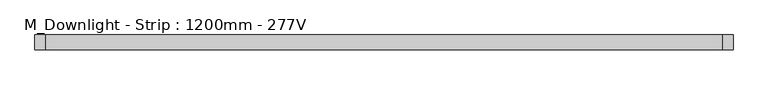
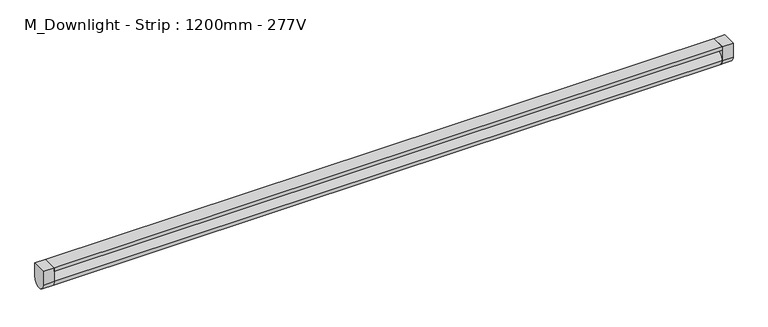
"""IFC4 building model written with IfcOpenShell, lengths in millimetres: light fixture geometry, M_Downlight - Strip : 1200mm - 277V."""

import ifcopenshell
import ifcopenshell.guid

model = None  # the IFC model being written
_history = None  # IfcOwnerHistory: only IFC2X3 demands one
_inside = {}  # id of a spatial element -> (the spatial element, [elements in it])
_under = {}  # id of a project, library or spatial element -> (it, [spatial elements below it])
_declared = {}  # id of a project -> (the project, [libraries it declares])
_typed = {}  # id of a type object -> (the type object, [elements of that type])
_made_of = {}  # id of a material, layer set ... -> (it, [elements and type objects made of it])


def new_model(schema):
    """Start an empty IFC model of exactly this schema.

    Asked for "IFC4X3", IfcOpenShell would pick the latest addendum, in which some entities
    have other attributes; the version numbers below select the first issue.
    IFC2X3 requires an IfcOwnerHistory on every rooted entity: one is made here for all.
    """
    global model, _history
    if schema == "IFC4X3":
        model = ifcopenshell.file(schema_version=(4, 3, 0, 0))
    else:
        model = ifcopenshell.file(schema=schema)
    _inside.clear()
    _under.clear()
    _declared.clear()
    _typed.clear()
    _made_of.clear()
    _history = None
    if model.schema == "IFC2X3":
        org = make("IfcOrganization", Name="unknown")
        user = make(
            "IfcPersonAndOrganization",
            ThePerson=make("IfcPerson", FamilyName="unknown"),
            TheOrganization=org,
        )
        app = make(
            "IfcApplication",
            ApplicationDeveloper=org,
            Version="unknown",
            ApplicationFullName="unknown",
            ApplicationIdentifier="unknown",
        )
        _history = make(
            "IfcOwnerHistory",
            OwningUser=user,
            OwningApplication=app,
            ChangeAction="ADDED",
            CreationDate=0,
        )
    return model


def make(cls, **values):
    """One entity of the class cls with the attributes given. An attribute that is None is left unset."""
    return model.create_entity(
        cls, **{name: value for name, value in values.items() if value is not None}
    )


def rooted(cls, **values):
    """An entity with a GlobalId (a new one), such as an element, a storey or a relation."""
    return make(cls, GlobalId=ifcopenshell.guid.new(), OwnerHistory=_history, **values)


def si_unit(unit_type, name, prefix=None):
    """IfcSIUnit, for example si_unit("LENGTHUNIT", "METRE", prefix="MILLI")."""
    return make("IfcSIUnit", UnitType=unit_type, Prefix=prefix, Name=name)


def assignment(units):
    """IfcUnitAssignment: the units of a project."""
    return None if units is None else make("IfcUnitAssignment", Units=units)


def point(xyz):
    """IfcCartesianPoint."""
    return None if xyz is None else make("IfcCartesianPoint", Coordinates=xyz)


def direction(xyz):
    """IfcDirection."""
    return None if xyz is None else make("IfcDirection", DirectionRatios=xyz)


def frame(location, z_axis=None, x_axis=None):
    """IfcAxis2Placement3D, a coordinate frame: its origin and axes. An axis left out is left unset."""
    return make(
        "IfcAxis2Placement3D",
        Location=point(location),
        Axis=direction(z_axis),
        RefDirection=direction(x_axis),
    )


def frame_2d(location, x_axis=None):
    """IfcAxis2Placement2D, a coordinate frame in the plane: its origin and x axis."""
    return make(
        "IfcAxis2Placement2D", Location=point(location), RefDirection=direction(x_axis)
    )


def origin():
    """The frame at (0, 0, 0) with its axes left unset."""
    return frame((0.0, 0.0, 0.0))


def place(relative_to, where):
    """IfcLocalPlacement: puts the frame where relative to a parent placement (None: the world)."""
    return make(
        "IfcLocalPlacement", PlacementRelTo=relative_to, RelativePlacement=where
    )


def context(
    kind, dimensions, precision=None, world=None, true_north=None, identifier=None
):
    """IfcGeometricRepresentationContext, for example the 3D "Model" context."""
    return make(
        "IfcGeometricRepresentationContext",
        ContextIdentifier=identifier,
        ContextType=kind,
        CoordinateSpaceDimension=dimensions,
        Precision=precision,
        WorldCoordinateSystem=world,
        TrueNorth=true_north,
    )


def project(units=None, contexts=None):
    """IfcProject with its units and contexts."""
    return rooted(
        "IfcProject",
        Name="project",
        RepresentationContexts=contexts,
        UnitsInContext=assignment(units),
    )


def spatial(cls, under=None, at=None, **own):
    """A site, building, storey or space (cls), placed at a placement, below another one or the project."""
    s = rooted(cls, ObjectPlacement=at, **own)
    if under is not None:
        _under.setdefault(under.id(), (under, []))[1].append(s)
    return s


def polyline(points):
    """IfcPolyline through the points."""
    return make("IfcPolyline", Points=[point(p) for p in points])


def circle_curve(where, radius):
    """IfcCircle in the frame where."""
    return make("IfcCircle", Position=where, Radius=radius)


def trimmed(basis, trim1, trim2, sense, master):
    """IfcTrimmedCurve: the piece of a basis curve between two trims."""
    return make(
        "IfcTrimmedCurve",
        BasisCurve=basis,
        Trim1=trim1,
        Trim2=trim2,
        SenseAgreement=sense,
        MasterRepresentation=master,
    )


def segment(curve, same_sense, transition):
    """IfcCompositeCurveSegment."""
    return make(
        "IfcCompositeCurveSegment",
        Transition=transition,
        SameSense=same_sense,
        ParentCurve=curve,
    )


def composite_curve(segments, self_intersect=None):
    """IfcCompositeCurve: segments joined end to end."""
    return make("IfcCompositeCurve", Segments=segments, SelfIntersect=self_intersect)


def outline(outer, holes=None, kind="AREA"):
    """IfcArbitraryClosedProfileDef: a profile drawn as a closed curve; with holes, ...WithVoids."""
    if holes is None:
        return make("IfcArbitraryClosedProfileDef", ProfileType=kind, OuterCurve=outer)
    return make(
        "IfcArbitraryProfileDefWithVoids",
        ProfileType=kind,
        OuterCurve=outer,
        InnerCurves=holes,
    )


def extrude(swept, where, along, depth):
    """IfcExtrudedAreaSolid: the profile swept, set in the frame where, extruded along a direction by depth."""
    return make(
        "IfcExtrudedAreaSolid",
        SweptArea=swept,
        Position=where,
        ExtrudedDirection=direction(along),
        Depth=depth,
    )


def shape(context_of_items, identifier, shape_type, items):
    """IfcShapeRepresentation: the items that make up one representation, for example the "Body"."""
    return make(
        "IfcShapeRepresentation",
        ContextOfItems=context_of_items,
        RepresentationIdentifier=identifier,
        RepresentationType=shape_type,
        Items=items,
    )


def source(mapping_origin, context_of_items, identifier, shape_type, items):
    """IfcRepresentationMap: a shape defined once, which mapped items show again and again."""
    return make(
        "IfcRepresentationMap",
        MappingOrigin=mapping_origin,
        MappedRepresentation=shape(context_of_items, identifier, shape_type, items),
    )


def transform(
    local_origin,
    x_axis=None,
    y_axis=None,
    z_axis=None,
    scale=None,
    scale2=None,
    scale3=None,
    uniform=True,
):
    """IfcCartesianTransformationOperator3D, or its non-uniform kind. x_axis, y_axis, z_axis: its Axis1, 2, 3."""
    if uniform:
        return make(
            "IfcCartesianTransformationOperator3D",
            Axis1=direction(x_axis),
            Axis2=direction(y_axis),
            LocalOrigin=point(local_origin),
            Scale=scale,
            Axis3=direction(z_axis),
        )
    return make(
        "IfcCartesianTransformationOperator3DnonUniform",
        Axis1=direction(x_axis),
        Axis2=direction(y_axis),
        LocalOrigin=point(local_origin),
        Scale=scale,
        Axis3=direction(z_axis),
        Scale2=scale2,
        Scale3=scale3,
    )


def mapped(mapping_source, mapping_target):
    """IfcMappedItem: shows the shape of a source again, moved by a transform."""
    return make(
        "IfcMappedItem", MappingSource=mapping_source, MappingTarget=mapping_target
    )


def made_of(thing, what):
    """Note that an element or type object is made of a material, layer set ...; save() writes the relation."""
    if what is not None:
        _made_of.setdefault(what.id(), (what, []))[1].append(thing)
    return thing


def element(
    cls,
    number,
    at=None,
    inside=None,
    cuts=None,
    type_object=None,
    material=None,
    context=None,
    identifier="Body",
    shape_type=None,
    held_by="IfcProductDefinitionShape",
    body=None,
    shapes=None,
    **own,
):
    """One element of the class cls, such as IfcWall. Its Tag is "e" and its number.

    at: its placement. inside: the storey or other place that contains it. cuts: it is an
    opening in that element (IfcRelVoidsElement). A single representation is given by context,
    identifier, shape_type and body (its items); several are given by shapes. held_by: the class
    of the entity that holds the representations. save() writes the other relations.
    """
    e = rooted(cls, Tag="e%d" % number, ObjectPlacement=at, **own)
    if body is not None:
        shapes = [shape(context, identifier, shape_type, body)]
    if shapes is not None:
        e.Representation = make(held_by, Representations=shapes)
    if inside is not None:
        _inside.setdefault(inside.id(), (inside, []))[1].append(e)
    if cuts is not None:
        rooted(
            "IfcRelVoidsElement", RelatingBuildingElement=cuts, RelatedOpeningElement=e
        )
    if type_object is not None:
        _typed.setdefault(type_object.id(), (type_object, []))[1].append(e)
    return made_of(e, material)


def aggregate(whole, parts):
    """IfcRelAggregates: a whole, such as a stair, and the parts it consists of."""
    return rooted("IfcRelAggregates", RelatingObject=whole, RelatedObjects=parts)


def save(model, path):
    """Write the relations noted so far, then the file.

    IfcRelAggregates (storeys below a building ...), IfcRelContainedInSpatialStructure (elements
    in a storey), IfcRelDefinesByType, IfcRelAssociatesMaterial and IfcRelDeclares: one each for
    every whole, place, type object, material and project.
    """
    for whole, parts in _under.values():
        aggregate(whole, parts)
    for where, things in _inside.values():
        rooted(
            "IfcRelContainedInSpatialStructure",
            RelatedElements=things,
            RelatingStructure=where,
        )
    for kind, things in _typed.values():
        rooted("IfcRelDefinesByType", RelatedObjects=things, RelatingType=kind)
    for what, things in _made_of.values():
        rooted("IfcRelAssociatesMaterial", RelatedObjects=things, RelatingMaterial=what)
    for by, libraries in _declared.values():
        rooted("IfcRelDeclares", RelatingContext=by, RelatedDefinitions=libraries)
    model.write(path)


def m_downlight_strip_1200mm_277v_72c973f1(model_context):
    return source(origin(), model_context, "Body", "SweptSolid", [
        extrude(outline(polyline([(580.95, -205.9435765), (580.95, -231.3435765), (-580.95, -231.3435765), (-580.95, -205.9435765), (580.95, -205.9435765)])), frame((0.0, 0.0, 1343.65), z_axis=(0.0, 0.0, 1.0), x_axis=(1.0, 0.0, 0.0)), (0.0, 0.0, 1.0), 6.35),
        extrude(outline(composite_curve([segment(trimmed(circle_curve(frame_2d((-218.6435765, 1324.6)), 12.7), [point((-205.9435765, 1324.6))], [point((-231.3435765, 1324.6))], False, "CARTESIAN"), True, "CONTINUOUS"), segment(polyline([(-231.3435765, 1324.6), (-231.3435765, 1350.0), (-205.9435765, 1350.0), (-205.9435765, 1324.6)]), True, "CONTINUOUS")], self_intersect=False)), frame((-600.0, 0.0, 0.0), z_axis=(1.0, 0.0, 0.0), x_axis=(0.0, 1.0, 0.0)), (0.0, 0.0, 1.0), 19.05),
        extrude(outline(composite_curve([segment(trimmed(circle_curve(frame_2d((-218.6435765, 1324.6)), 12.7), [point((-205.9435765, 1324.6))], [point((-231.3435765, 1324.6))], False, "CARTESIAN"), True, "CONTINUOUS"), segment(polyline([(-231.3435765, 1324.6), (-231.3435765, 1350.0), (-205.9435765, 1350.0), (-205.9435765, 1324.6)]), True, "CONTINUOUS")], self_intersect=False)), frame((580.95, 0.0, 0.0), z_axis=(1.0, 0.0, 0.0), x_axis=(0.0, 1.0, 0.0)), (0.0, 0.0, 1.0), 19.05),
        extrude(outline(composite_curve([segment(trimmed(circle_curve(frame_2d((-218.6435765, 1324.6)), 12.7), [point((-231.3435765, 1324.6))], [point((-205.9435765, 1324.6))], False, "CARTESIAN"), True, "CONTINUOUS"), segment(trimmed(circle_curve(frame_2d((-218.6435765, 1324.6)), 12.7), [point((-205.9435765, 1324.6))], [point((-231.3435765, 1324.6))], False, "CARTESIAN"), True, "CONTINUOUS")], self_intersect=False)), frame((-580.95, 0.0, 0.0), z_axis=(1.0, 0.0, 0.0), x_axis=(0.0, 1.0, 0.0)), (0.0, 0.0, 1.0), 1161.9),
    ])


if __name__ == "__main__":
    model = new_model("IFC4")
    model_context = context("Model", 3, world=origin())
    ifc_project = project(units=[si_unit("LENGTHUNIT", "METRE", prefix="MILLI")], contexts=[model_context])
    site = spatial("IfcSite", under=ifc_project)
    building = spatial("IfcBuilding", under=site)
    placement = place(None, origin())
    m_downlight_strip_1200mm_277v_shape = m_downlight_strip_1200mm_277v_72c973f1(model_context)
    element("IfcLightFixture", 1, ObjectType="M_Downlight - Strip : 1200mm - 277V", at=placement, inside=building, context=model_context, shape_type="MappedRepresentation", body=[
        mapped(m_downlight_strip_1200mm_277v_shape, transform((0.0, 0.0, 0.0), x_axis=(1.0, 0.0, 0.0), y_axis=(0.0, 1.0, 0.0), z_axis=(0.0, 0.0, 1.0))),
    ])
    save(model, "model.ifc")
